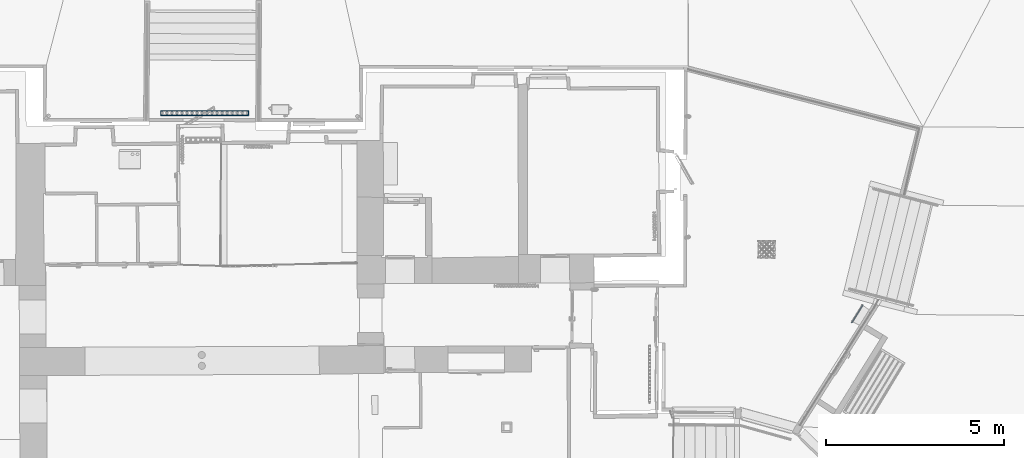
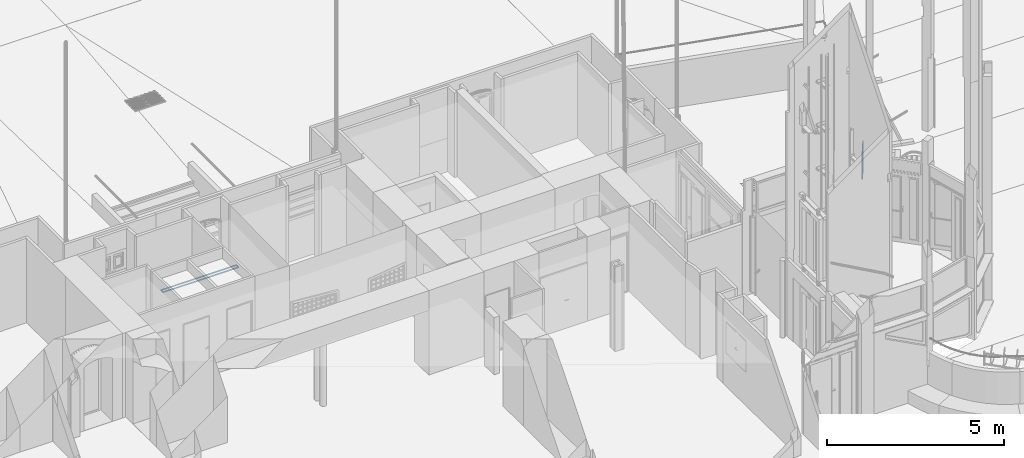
# One storey, part 35 of 133: 2 members, 2 elements without a shape of their own.
"""IFC2X3 building model written with IfcOpenShell, lengths in centimetres."""

from ifc_helpers import new_model, entity, si_unit, converted_unit, direction, frame, origin, origin_with_axes, place, context, subcontext, project, spatial, faceted_brep, material, type_object, element, aggregate, save


model = new_model("IFC2X3")

# Units and contexts
model_context = context("Model", 3, precision=0.0001, world=origin(), true_north=direction((0.225632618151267, 0.974212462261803, 0.0)))
body_context = subcontext(model_context, "Body", "Model", "MODEL_VIEW")
ifc_project = project(units=[si_unit("LENGTHUNIT", "METRE", prefix="CENTI"), si_unit("AREAUNIT", "SQUARE_METRE", prefix="CENTI"), si_unit("VOLUMEUNIT", "CUBIC_METRE", prefix="CENTI"), converted_unit("PLANEANGLEUNIT", "DEGREE", entity("IfcRatioMeasure", 0.0174532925), si_unit("PLANEANGLEUNIT", "RADIAN"), dimensions=[0, 0, 0, 0, 0, 0, 0])], contexts=[model_context])

# Site, building, storey
site_placement = place(None, origin_with_axes())
site = spatial("IfcSite", under=ifc_project, at=site_placement, Name="Default Site", CompositionType="ELEMENT")
building_placement = place(site_placement, origin_with_axes())
building = spatial("IfcBuilding", under=site, at=building_placement, Name="Default Building", CompositionType="ELEMENT")
storey_placement = place(building_placement, frame((0.0, 0.0, -291.400371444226), z_axis=(0.0, 0.0, 1.0), x_axis=(1.0, 0.0, 0.0)))
storey = spatial("IfcBuildingStorey", under=building, at=storey_placement, Name="Rez-de-Jardin", CompositionType="ELEMENT", Elevation=-291.400371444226)

# Assembly, member
building_element_proxy_type = type_object("IfcBuildingElementProxyType", Name="Type Object", PredefinedType="NOTDEFINED")
assembly_1_placement = place(storey_placement, frame((1622.92973164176, 43.6195477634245, 63.0), z_axis=(0.0, 0.0, 1.0), x_axis=(0.534355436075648, 0.845259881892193, 0.0)))
assembly_1 = element("IfcElementAssembly", 1, at=assembly_1_placement, inside=storey, type_object=building_element_proxy_type, Name="Panneau 1702010", ObjectType="Precast panel", PredefinedType="USERDEFINED")
ifc_material_1 = material(Name="Acier inoxydable opaque")
member_1_placement = place(assembly_1_placement, frame((2.99999993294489, 1.99999997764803, 88.9999985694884), z_axis=(1.0, -7.93254351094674e-14, -7.26163330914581e-17), x_axis=(7.93254351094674e-14, 1.0, 0.0)))
member_1 = element("IfcMember", 2, at=member_1_placement, material=ifc_material_1, Name="4294967155", context=body_context, shape_type="Brep", body=[
    faceted_brep([(2.3783058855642e-13, -2.22044604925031e-14, -8.67361737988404e-14), (-1.99999995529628, -2.22044604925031e-14, 7.19146928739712e-14), (-1.99999995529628, -85.9999986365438, 7.19146928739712e-14), (2.3783058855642e-13, -85.9999986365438, -8.67361737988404e-14), (-1.99999995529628, -2.22044604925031e-14, 7.21644966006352e-14), (-1.99999995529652, 3.00000309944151, -2.9999999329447), (-1.99999995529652, -88.9999985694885, -2.9999999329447), (-1.99999995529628, -85.9999986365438, 7.84095011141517e-14), (-1.73472347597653e-16, 3.00000309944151, -2.99999993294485), (-1.73472347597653e-16, -88.9999985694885, -2.99999993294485), (-1.73472347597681e-16, 3.00000309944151, -2.99999993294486), (2.37802827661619e-13, -2.22044604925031e-14, -8.67361737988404e-14), (2.37802827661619e-13, -85.9999986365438, -8.04911692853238e-14), (-1.73472347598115e-16, -88.9999985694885, -2.99999993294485), (2.3783058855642e-13, -85.9999986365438, -8.04911692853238e-14), (-1.99999995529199, -85.9999986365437, 53.9999993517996), (4.52138326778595e-12, -85.9999986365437, 53.9999993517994), (-1.99999995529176, -88.9999985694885, 57.0000024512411), (-1.99999995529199, -85.9999986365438, 53.9999993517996), (-1.73472347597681e-16, -88.9999985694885, -2.99999993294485), (4.75938732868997e-12, -88.9999985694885, 57.0000024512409), (2.3780282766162e-13, -85.9999986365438, -8.04911692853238e-14), (4.52137627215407e-12, -85.9999986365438, 53.9999993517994), (4.75935282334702e-12, -88.9999985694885, 57.0000024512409), (4.52138326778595e-12, -85.9999986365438, 53.9999993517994), (-1.99999995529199, -2.22044604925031e-14, 53.9999993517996), (4.52138326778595e-12, -2.22044604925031e-14, 53.9999993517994), (-1.99999995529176, 3.00000309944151, 57.0000024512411), (-1.99999995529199, -2.22044604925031e-14, 53.9999993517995), (4.75938732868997e-12, 3.00000309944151, 57.0000024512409), (4.52141077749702e-12, -85.9999986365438, 53.9999993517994), (4.52141077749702e-12, -2.22044604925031e-14, 53.9999993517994), (-1.99999995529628, -1.50235125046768e-14, 7.21644966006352e-14), (2.3783058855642e-13, -1.50235125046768e-14, -8.67361737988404e-14), (-1.73472347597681e-16, 3.0000030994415, -2.99999993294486), (-1.99999995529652, 3.0000030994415, -2.9999999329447), (2.37837333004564e-13, -2.22044604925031e-14, -8.67361737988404e-14), (-1.38967004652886e-16, 3.00000309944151, -2.99999993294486)], [[[0, 1, 2, 3]], [[4, 5, 6, 7]], [[5, 8, 9, 6]], [[10, 11, 12, 13]], [[14, 7, 15, 16]], [[7, 6, 17, 18]], [[6, 19, 20, 17]], [[19, 21, 22, 23]], [[24, 18, 25, 26]], [[18, 17, 27, 28]], [[17, 20, 29, 27]], [[20, 30, 31, 29]], [[26, 28, 32, 33]], [[28, 27, 5, 4]], [[27, 29, 34, 35]], [[29, 31, 36, 37]]]),
])
aggregate(assembly_1, [member_1])

assembly_2_placement = place(storey_placement, frame((-322.682568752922, 627.125798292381, 0.0), z_axis=(0.0, 1.0, -2.38697950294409e-15), x_axis=(1.0, 0.0, 0.0)))
assembly_2 = element("IfcElementAssembly", 3, at=assembly_2_placement, inside=storey, type_object=building_element_proxy_type, Name="Panneau 92029", ObjectType="Precast panel", PredefinedType="USERDEFINED")
ifc_material_2 = material(Name="Aluminium satiné")
member_2_placement = place(assembly_2_placement, frame((1.99999995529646, 1.99999995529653, 11.9999997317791), z_axis=(0.999999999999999, 3.31259950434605e-31, -1.38777878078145e-16), x_axis=(0.0, 1.0, 2.38697950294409e-15)))
member_2 = element("IfcMember", 4, at=member_2_placement, material=ifc_material_2, Name="4294966832", context=body_context, shape_type="Brep", body=[
    faceted_brep([(-6.00214322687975e-14, -9.29811783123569e-14, -1.73472347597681e-15), (-3.99999991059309, -8.46545056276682e-14, -1.73472347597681e-15), (-3.99999991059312, -9.99999977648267, -1.73472347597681e-15), (-8.39606162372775e-14, -9.99999977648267, -1.73472347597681e-15), (-3.99999991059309, 2.00000032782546, -1.99999995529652), (-3.99999991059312, -11.9999997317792, -1.99999995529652), (-3.99999991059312, -9.99999977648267, -3.46944695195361e-16), (-5.55111512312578e-14, 2.00000032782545, -1.99999995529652), (-8.88178419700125e-14, -11.9999997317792, -1.99999995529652), (-6.02851110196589e-14, -9.29811783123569e-14, -1.73472347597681e-15), (-8.41549055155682e-14, -9.99999977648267, -3.46944695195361e-16), (-8.89288644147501e-14, -11.9999997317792, -1.99999995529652), (-8.39606162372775e-14, -9.99999977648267, -3.46944695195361e-16), (-3.99999991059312, -9.99999977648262, 244.000003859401), (-8.39606162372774e-14, -9.99999977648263, 244.000003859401), (-3.99999991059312, -11.9999997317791, 246.000001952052), (-3.99999991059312, -9.99999977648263, 244.000003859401), (-8.88178419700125e-14, -11.9999997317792, 246.000001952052), (-8.40438830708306e-14, -9.99999977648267, -3.46944695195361e-16), (-8.40438830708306e-14, -9.99999977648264, 244.000003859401), (-8.39606162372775e-14, -9.99999977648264, 244.000003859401), (-3.99999991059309, -4.9960036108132e-14, 244.000003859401), (-6.00214322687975e-14, -5.82867087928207e-14, 244.000003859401), (-3.99999991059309, 2.0000003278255, 246.000001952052), (-5.55111512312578e-14, 2.00000032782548, 246.000001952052), (-6.01740885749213e-14, -5.82867087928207e-14, 244.000003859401), (-5.54001287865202e-14, 2.00000032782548, 246.000001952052), (-3.99999991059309, -4.8738790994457e-14, 244.000003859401), (-3.99999991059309, -8.26005937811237e-14, -1.73472347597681e-15), (-6.00214322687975e-14, -9.21485115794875e-14, -1.73472347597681e-15), (-6.02851110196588e-14, -5.82867087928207e-14, 244.000003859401)], [[[0, 1, 2, 3]], [[1, 4, 5, 6]], [[4, 7, 8, 5]], [[7, 9, 10, 11]], [[12, 6, 13, 14]], [[6, 5, 15, 16]], [[5, 8, 17, 15]], [[8, 18, 19, 17]], [[20, 16, 21, 22]], [[16, 15, 23, 21]], [[15, 17, 24, 23]], [[17, 19, 25, 26]], [[22, 27, 28, 29]], [[21, 23, 4, 1]], [[23, 24, 7, 4]], [[24, 30, 9, 7]]]),
])
aggregate(assembly_2, [member_2])

save(model, "model.ifc")
